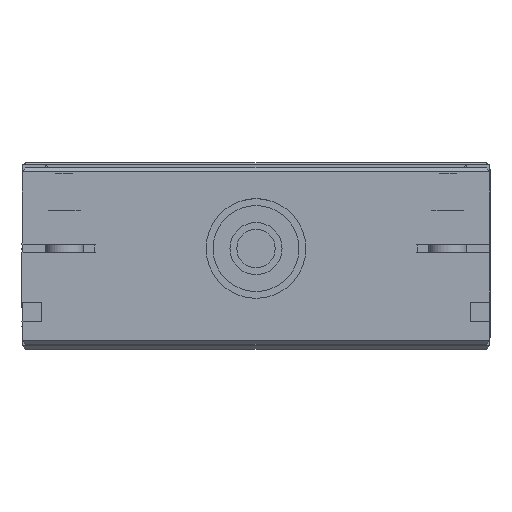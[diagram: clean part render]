
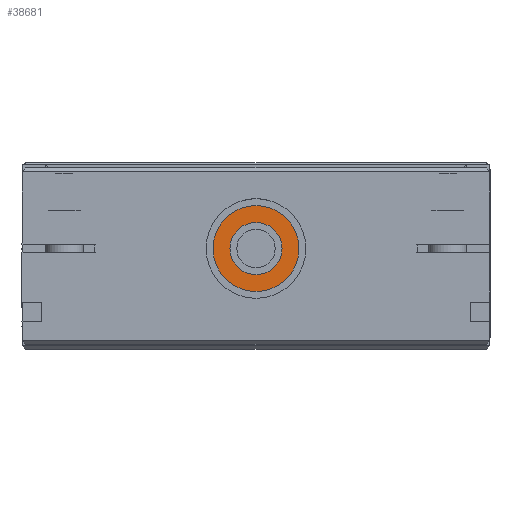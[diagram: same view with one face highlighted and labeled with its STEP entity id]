
A CAD part, top view. The second image highlights one B-rep face of the part: STEP entity #38681.
In plain terms, the highlighted planar face has unit normal (0, 0, 1) as drawn and (1, 0, 0) by its records, which use the part's own axes.
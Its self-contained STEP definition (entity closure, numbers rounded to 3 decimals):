
#153 = ORIENTED_EDGE ( 'NONE', *, *, #2867, .F. ) ;
#1711 = CARTESIAN_POINT ( 'NONE',  ( 368., 25., 0. ) ) ;
#2615 = CARTESIAN_POINT ( 'NONE',  ( 368., 25., 0. ) ) ;
#2867 = EDGE_CURVE ( 'NONE', #19813, #15214, #47121, .T. ) ;
#4389 = CARTESIAN_POINT ( 'NONE',  ( 368., 25., 11.2 ) ) ;
#5196 = CARTESIAN_POINT ( 'NONE',  ( 368., 25., -6.8 ) ) ;
#6067 = CIRCLE ( 'NONE', #22094, 6.8 ) ;
#6644 = DIRECTION ( 'NONE',  ( 0., 0., 1. ) ) ;
#13341 = EDGE_LOOP ( 'NONE', ( #153, #16274 ) ) ;
#14751 = AXIS2_PLACEMENT_3D ( 'NONE', #1711, #31906, #43454 ) ;
#15214 = VERTEX_POINT ( 'NONE', #26302 ) ;
#16274 = ORIENTED_EDGE ( 'NONE', *, *, #40608, .F. ) ;
#17931 = DIRECTION ( 'NONE',  ( -1., 0., 0. ) ) ;
#17932 = CIRCLE ( 'NONE', #14751, 11.2 ) ;
#17952 = DIRECTION ( 'NONE',  ( -1., 0., 0. ) ) ;
#19813 = VERTEX_POINT ( 'NONE', #4389 ) ;
#22094 = AXIS2_PLACEMENT_3D ( 'NONE', #25233, #17931, #44331 ) ;
#23041 = CARTESIAN_POINT ( 'NONE',  ( 368., 25., 0. ) ) ;
#25233 = CARTESIAN_POINT ( 'NONE',  ( 368., 25., 0. ) ) ;
#25605 = ORIENTED_EDGE ( 'NONE', *, *, #37202, .T. ) ;
#26302 = CARTESIAN_POINT ( 'NONE',  ( 368., 25., -11.2 ) ) ;
#26556 = DIRECTION ( 'NONE',  ( 0., 0., 1. ) ) ;
#29104 = ORIENTED_EDGE ( 'NONE', *, *, #44220, .T. ) ;
#29294 = DIRECTION ( 'NONE',  ( -1., 0., 0. ) ) ;
#29642 = VERTEX_POINT ( 'NONE', #47869 ) ;
#29833 = DIRECTION ( 'NONE',  ( -1., 0., 0. ) ) ;
#31520 = AXIS2_PLACEMENT_3D ( 'NONE', #33314, #29294, #48121 ) ;
#31906 = DIRECTION ( 'NONE',  ( -1., 0., 0. ) ) ;
#33019 = CIRCLE ( 'NONE', #43459, 6.8 ) ;
#33314 = CARTESIAN_POINT ( 'NONE',  ( 368., 31.8, 0. ) ) ;
#33832 = VERTEX_POINT ( 'NONE', #5196 ) ;
#37202 = EDGE_CURVE ( 'NONE', #33832, #29642, #33019, .T. ) ;
#38508 = EDGE_LOOP ( 'NONE', ( #29104, #25605 ) ) ;
#38681 = ADVANCED_FACE ( 'NONE', ( #44866, #40092 ), #40335, .F. ) ;
#40092 = FACE_BOUND ( 'NONE', #38508, .T. ) ;
#40335 = PLANE ( 'NONE',  #31520 ) ;
#40608 = EDGE_CURVE ( 'NONE', #15214, #19813, #17932, .T. ) ;
#43454 = DIRECTION ( 'NONE',  ( 0., 0., 1. ) ) ;
#43459 = AXIS2_PLACEMENT_3D ( 'NONE', #23041, #29833, #26556 ) ;
#44220 = EDGE_CURVE ( 'NONE', #29642, #33832, #6067, .T. ) ;
#44331 = DIRECTION ( 'NONE',  ( 0., 0., 1. ) ) ;
#44733 = AXIS2_PLACEMENT_3D ( 'NONE', #2615, #17952, #6644 ) ;
#44866 = FACE_OUTER_BOUND ( 'NONE', #13341, .T. ) ;
#47121 = CIRCLE ( 'NONE', #44733, 11.2 ) ;
#47869 = CARTESIAN_POINT ( 'NONE',  ( 368., 25., 6.8 ) ) ;
#48121 = DIRECTION ( 'NONE',  ( 0., 0., 1. ) ) ;
